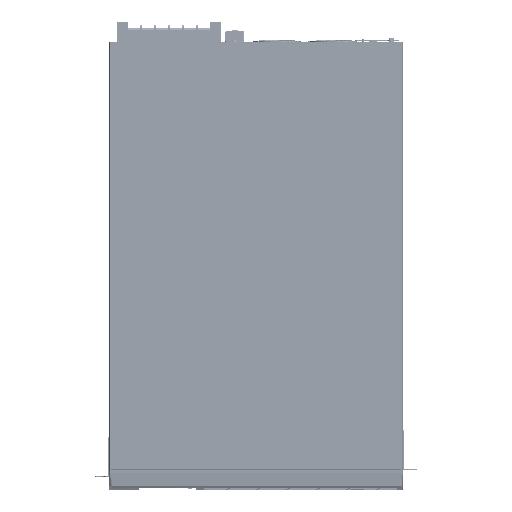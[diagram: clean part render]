
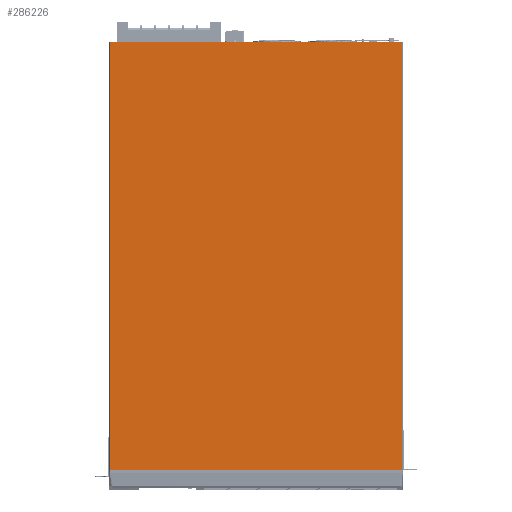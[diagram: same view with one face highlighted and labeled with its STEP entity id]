
A CAD part, front view. The second image highlights one B-rep face of the part: STEP entity #286226.
In plain terms, the highlighted planar face has unit normal (0, -1, 0).
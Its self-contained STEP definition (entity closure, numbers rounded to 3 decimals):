
#283 = EDGE_CURVE ( 'NONE', #228332, #45335, #162713, .T. ) ;
#747 = EDGE_CURVE ( 'NONE', #179413, #231839, #293589, .T. ) ;
#6970 = ORIENTED_EDGE ( 'NONE', *, *, #288349, .F. ) ;
#7553 = ORIENTED_EDGE ( 'NONE', *, *, #146231, .F. ) ;
#14752 = DIRECTION ( 'NONE',  ( 0., 0., -1. ) ) ;
#23245 = CARTESIAN_POINT ( 'NONE',  ( 131.921, 343.995, 672.053 ) ) ;
#45335 = VERTEX_POINT ( 'NONE', #162279 ) ;
#57275 = DIRECTION ( 'NONE',  ( 0., 0., -1. ) ) ;
#58286 = LINE ( 'NONE', #307781, #130333 ) ;
#63824 = LINE ( 'NONE', #148239, #249006 ) ;
#68040 = FACE_OUTER_BOUND ( 'NONE', #92240, .T. ) ;
#72385 = ORIENTED_EDGE ( 'NONE', *, *, #223857, .F. ) ;
#82977 = CARTESIAN_POINT ( 'NONE',  ( 131.521, 343.995, 672.053 ) ) ;
#92240 = EDGE_LOOP ( 'NONE', ( #163743, #269201, #154690, #6970, #7553, #328770, #344513, #72385 ) ) ;
#100616 = VECTOR ( 'NONE', #224983, 1000. ) ;
#107659 = DIRECTION ( 'NONE',  ( 0., 0., -1. ) ) ;
#113153 = LINE ( 'NONE', #223150, #100616 ) ;
#120619 = LINE ( 'NONE', #234275, #288963 ) ;
#121331 = DIRECTION ( 'NONE',  ( 0., 0., -1. ) ) ;
#127961 = EDGE_CURVE ( 'NONE', #228332, #179413, #120619, .T. ) ;
#130326 = DIRECTION ( 'NONE',  ( -1., 0., 0. ) ) ;
#130333 = VECTOR ( 'NONE', #194028, 1000. ) ;
#133895 = CARTESIAN_POINT ( 'NONE',  ( 131.521, 343.995, 29.053 ) ) ;
#137958 = CARTESIAN_POINT ( 'NONE',  ( 568.921, 343.995, 29.053 ) ) ;
#146231 = EDGE_CURVE ( 'NONE', #318450, #307595, #113153, .T. ) ;
#148239 = CARTESIAN_POINT ( 'NONE',  ( 130.221, 343.995, 29.053 ) ) ;
#150583 = EDGE_CURVE ( 'NONE', #318450, #242471, #359389, .T. ) ;
#154690 = ORIENTED_EDGE ( 'NONE', *, *, #747, .T. ) ;
#162279 = CARTESIAN_POINT ( 'NONE',  ( 131.921, 343.995, 29.053 ) ) ;
#162713 = LINE ( 'NONE', #23245, #244369 ) ;
#163743 = ORIENTED_EDGE ( 'NONE', *, *, #283, .F. ) ;
#164008 = DIRECTION ( 'NONE',  ( -1., 0., 0. ) ) ;
#168230 = EDGE_CURVE ( 'NONE', #242471, #178850, #304920, .T. ) ;
#169622 = CARTESIAN_POINT ( 'NONE',  ( 568.521, 343.995, 29.053 ) ) ;
#178850 = VERTEX_POINT ( 'NONE', #133895 ) ;
#179413 = VERTEX_POINT ( 'NONE', #273636 ) ;
#194028 = DIRECTION ( 'NONE',  ( -1., 0., 0. ) ) ;
#203053 = VECTOR ( 'NONE', #130326, 1000. ) ;
#223150 = CARTESIAN_POINT ( 'NONE',  ( 568.921, 343.995, 672.053 ) ) ;
#223857 = EDGE_CURVE ( 'NONE', #45335, #178850, #63824, .T. ) ;
#224983 = DIRECTION ( 'NONE',  ( 0., 0., -1. ) ) ;
#228332 = VERTEX_POINT ( 'NONE', #335870 ) ;
#229589 = PLANE ( 'NONE',  #240814 ) ;
#231839 = VERTEX_POINT ( 'NONE', #169622 ) ;
#233186 = CARTESIAN_POINT ( 'NONE',  ( 130.221, 343.995, 672.053 ) ) ;
#234275 = CARTESIAN_POINT ( 'NONE',  ( 131.921, 343.995, 30.353 ) ) ;
#240814 = AXIS2_PLACEMENT_3D ( 'NONE', #233186, #319367, #121331 ) ;
#241972 = CARTESIAN_POINT ( 'NONE',  ( 568.921, 343.995, 672.053 ) ) ;
#242471 = VERTEX_POINT ( 'NONE', #346318 ) ;
#244369 = VECTOR ( 'NONE', #107659, 1000. ) ;
#249006 = VECTOR ( 'NONE', #164008, 1000. ) ;
#267923 = VECTOR ( 'NONE', #14752, 1000. ) ;
#269201 = ORIENTED_EDGE ( 'NONE', *, *, #127961, .T. ) ;
#273636 = CARTESIAN_POINT ( 'NONE',  ( 568.521, 343.995, 30.353 ) ) ;
#286226 = ADVANCED_FACE ( 'NONE', ( #68040 ), #229589, .T. ) ;
#288349 = EDGE_CURVE ( 'NONE', #307595, #231839, #58286, .T. ) ;
#288963 = VECTOR ( 'NONE', #344338, 1000. ) ;
#291790 = CARTESIAN_POINT ( 'NONE',  ( 568.521, 343.995, 672.053 ) ) ;
#292161 = VECTOR ( 'NONE', #57275, 1000. ) ;
#293589 = LINE ( 'NONE', #291790, #267923 ) ;
#304920 = LINE ( 'NONE', #82977, #292161 ) ;
#307595 = VERTEX_POINT ( 'NONE', #137958 ) ;
#307781 = CARTESIAN_POINT ( 'NONE',  ( 130.221, 343.995, 29.053 ) ) ;
#318450 = VERTEX_POINT ( 'NONE', #241972 ) ;
#319367 = DIRECTION ( 'NONE',  ( 0., -1., 0. ) ) ;
#328770 = ORIENTED_EDGE ( 'NONE', *, *, #150583, .T. ) ;
#333710 = CARTESIAN_POINT ( 'NONE',  ( 130.221, 343.995, 672.053 ) ) ;
#335870 = CARTESIAN_POINT ( 'NONE',  ( 131.921, 343.995, 30.353 ) ) ;
#344338 = DIRECTION ( 'NONE',  ( 1., 0., 0. ) ) ;
#344513 = ORIENTED_EDGE ( 'NONE', *, *, #168230, .T. ) ;
#346318 = CARTESIAN_POINT ( 'NONE',  ( 131.521, 343.995, 672.053 ) ) ;
#359389 = LINE ( 'NONE', #333710, #203053 ) ;
